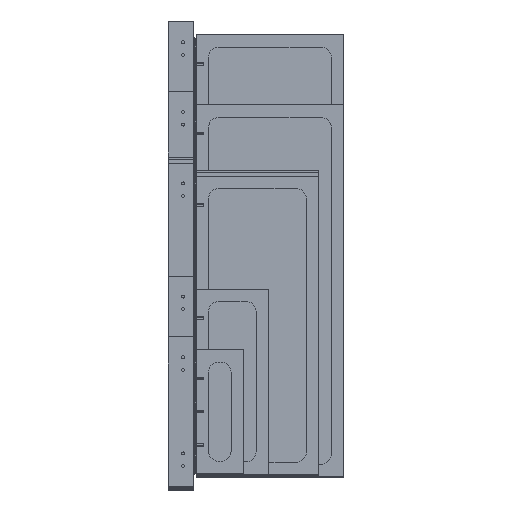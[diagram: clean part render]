
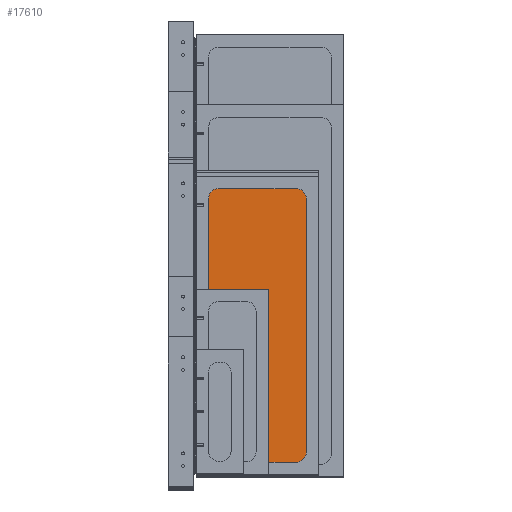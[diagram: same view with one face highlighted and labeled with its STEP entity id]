
A CAD part, top view. The second image highlights one B-rep face of the part: STEP entity #17610.
In plain terms, the highlighted planar face has unit normal (0, 0, 1) as drawn and (1, 0, 0) by its records, which use the part's own axes.
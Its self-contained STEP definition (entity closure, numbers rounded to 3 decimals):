
#187 = DIRECTION ( 'NONE',  ( 1., 0., 0. ) ) ;
#751 = CARTESIAN_POINT ( 'NONE',  ( 1., 273.5, -77.5 ) ) ;
#1116 = ORIENTED_EDGE ( 'NONE', *, *, #17643, .T. ) ;
#1443 = DIRECTION ( 'NONE',  ( 0., 0., -1. ) ) ;
#2048 = CARTESIAN_POINT ( 'NONE',  ( 1., -253.5, 77.5 ) ) ;
#2128 = DIRECTION ( 'NONE',  ( 0., 0., -1. ) ) ;
#2452 = CARTESIAN_POINT ( 'NONE',  ( 1., 253.5, -77.5 ) ) ;
#2914 = PLANE ( 'NONE',  #24274 ) ;
#4644 = EDGE_CURVE ( 'NONE', #18671, #21529, #25018, .T. ) ;
#4700 = DIRECTION ( 'NONE',  ( 1., 0., 0. ) ) ;
#5063 = CIRCLE ( 'NONE', #20604, 20. ) ;
#5873 = EDGE_CURVE ( 'NONE', #21529, #7419, #15657, .T. ) ;
#6699 = VECTOR ( 'NONE', #19571, 1000. ) ;
#7419 = VERTEX_POINT ( 'NONE', #13888 ) ;
#8301 = DIRECTION ( 'NONE',  ( 1., 0., 0. ) ) ;
#8592 = VECTOR ( 'NONE', #9139, 1000. ) ;
#9024 = FACE_OUTER_BOUND ( 'NONE', #19109, .T. ) ;
#9070 = AXIS2_PLACEMENT_3D ( 'NONE', #24565, #19979, #1443 ) ;
#9072 = CARTESIAN_POINT ( 'NONE',  ( 1., -253.5, -97.5 ) ) ;
#9126 = CARTESIAN_POINT ( 'NONE',  ( 1., 253.5, 97.5 ) ) ;
#9139 = DIRECTION ( 'NONE',  ( 0., 0., 1. ) ) ;
#9219 = EDGE_CURVE ( 'NONE', #11202, #18671, #21301, .T. ) ;
#10059 = VERTEX_POINT ( 'NONE', #9072 ) ;
#10792 = CIRCLE ( 'NONE', #25891, 20. ) ;
#11202 = VERTEX_POINT ( 'NONE', #24622 ) ;
#11327 = LINE ( 'NONE', #25900, #11763 ) ;
#11661 = CARTESIAN_POINT ( 'NONE',  ( 1., 273.5, 77.5 ) ) ;
#11763 = VECTOR ( 'NONE', #13357, 1000. ) ;
#12230 = ORIENTED_EDGE ( 'NONE', *, *, #9219, .T. ) ;
#12247 = ORIENTED_EDGE ( 'NONE', *, *, #23060, .T. ) ;
#12522 = CARTESIAN_POINT ( 'NONE',  ( 1., -273.5, -77.5 ) ) ;
#12558 = ORIENTED_EDGE ( 'NONE', *, *, #23003, .T. ) ;
#13357 = DIRECTION ( 'NONE',  ( 0., 0., -1. ) ) ;
#13485 = DIRECTION ( 'NONE',  ( 1., 0., 0. ) ) ;
#13805 = LINE ( 'NONE', #24469, #16808 ) ;
#13888 = CARTESIAN_POINT ( 'NONE',  ( 1., -253.5, 97.5 ) ) ;
#14082 = ORIENTED_EDGE ( 'NONE', *, *, #15599, .T. ) ;
#14088 = CIRCLE ( 'NONE', #15428, 20. ) ;
#14290 = ORIENTED_EDGE ( 'NONE', *, *, #15678, .T. ) ;
#15081 = VERTEX_POINT ( 'NONE', #20672 ) ;
#15428 = AXIS2_PLACEMENT_3D ( 'NONE', #2452, #187, #23149 ) ;
#15599 = EDGE_CURVE ( 'NONE', #10059, #15081, #13805, .T. ) ;
#15640 = CARTESIAN_POINT ( 'NONE',  ( 1., -273.5, 77.5 ) ) ;
#15657 = LINE ( 'NONE', #25520, #6699 ) ;
#15678 = EDGE_CURVE ( 'NONE', #20127, #10059, #10792, .T. ) ;
#16808 = VECTOR ( 'NONE', #26349, 1000. ) ;
#17610 = ADVANCED_FACE ( 'NONE', ( #9024 ), #2914, .T. ) ;
#17643 = EDGE_CURVE ( 'NONE', #22882, #20127, #11327, .T. ) ;
#18671 = VERTEX_POINT ( 'NONE', #11661 ) ;
#18805 = DIRECTION ( 'NONE',  ( 0., 0., -1. ) ) ;
#19109 = EDGE_LOOP ( 'NONE', ( #14290, #14082, #12247, #12230, #23899, #25879, #12558, #1116 ) ) ;
#19571 = DIRECTION ( 'NONE',  ( 0., -1., 0. ) ) ;
#19979 = DIRECTION ( 'NONE',  ( 1., 0., 0. ) ) ;
#20127 = VERTEX_POINT ( 'NONE', #12522 ) ;
#20604 = AXIS2_PLACEMENT_3D ( 'NONE', #2048, #8301, #18805 ) ;
#20672 = CARTESIAN_POINT ( 'NONE',  ( 1., 253.5, -97.5 ) ) ;
#20679 = CARTESIAN_POINT ( 'NONE',  ( 1., -253.5, -77.5 ) ) ;
#21301 = LINE ( 'NONE', #751, #8592 ) ;
#21529 = VERTEX_POINT ( 'NONE', #9126 ) ;
#22882 = VERTEX_POINT ( 'NONE', #15640 ) ;
#23003 = EDGE_CURVE ( 'NONE', #7419, #22882, #5063, .T. ) ;
#23060 = EDGE_CURVE ( 'NONE', #15081, #11202, #14088, .T. ) ;
#23149 = DIRECTION ( 'NONE',  ( 0., 0., -1. ) ) ;
#23342 = DIRECTION ( 'NONE',  ( 0., 0., -1. ) ) ;
#23882 = CARTESIAN_POINT ( 'NONE',  ( 1., -253.5, -77.5 ) ) ;
#23899 = ORIENTED_EDGE ( 'NONE', *, *, #4644, .T. ) ;
#24274 = AXIS2_PLACEMENT_3D ( 'NONE', #23882, #13485, #23342 ) ;
#24469 = CARTESIAN_POINT ( 'NONE',  ( 1., -253.5, -97.5 ) ) ;
#24565 = CARTESIAN_POINT ( 'NONE',  ( 1., 253.5, 77.5 ) ) ;
#24622 = CARTESIAN_POINT ( 'NONE',  ( 1., 273.5, -77.5 ) ) ;
#25018 = CIRCLE ( 'NONE', #9070, 20. ) ;
#25520 = CARTESIAN_POINT ( 'NONE',  ( 1., 253.5, 97.5 ) ) ;
#25879 = ORIENTED_EDGE ( 'NONE', *, *, #5873, .T. ) ;
#25891 = AXIS2_PLACEMENT_3D ( 'NONE', #20679, #4700, #2128 ) ;
#25900 = CARTESIAN_POINT ( 'NONE',  ( 1., -273.5, 77.5 ) ) ;
#26349 = DIRECTION ( 'NONE',  ( 0., 1., 0. ) ) ;
